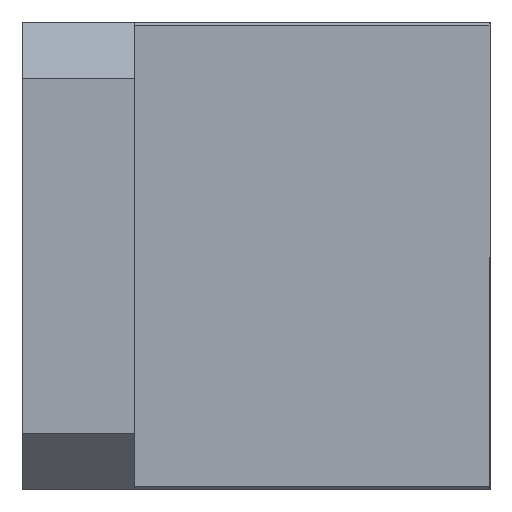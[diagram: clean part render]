
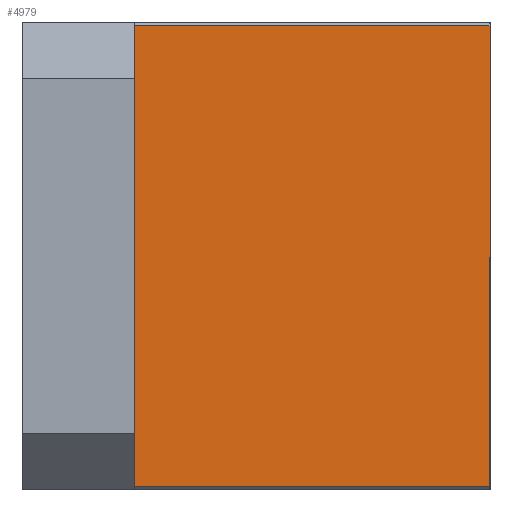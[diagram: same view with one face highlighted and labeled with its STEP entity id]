
A CAD part, left-side view. The second image highlights one B-rep face of the part: STEP entity #4979.
In plain terms, the highlighted planar face has unit normal (-1, 0, 0).
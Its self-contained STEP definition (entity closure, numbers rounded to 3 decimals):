
#884 = FACE_OUTER_BOUND ( 'NONE', #4228, .T. ) ;
#1051 = CARTESIAN_POINT ( 'NONE',  ( -8.804, -6.357, -12.3 ) ) ;
#1598 = DIRECTION ( 'NONE',  ( 1., 0., 0. ) ) ;
#1774 = DIRECTION ( 'NONE',  ( 0., 0., -1. ) ) ;
#1923 = LINE ( 'NONE', #3501, #9528 ) ;
#2151 = DIRECTION ( 'NONE',  ( 0., 0., 1. ) ) ;
#2169 = ORIENTED_EDGE ( 'NONE', *, *, #2649, .T. ) ;
#2260 = LINE ( 'NONE', #6044, #7905 ) ;
#2649 = EDGE_CURVE ( 'NONE', #5338, #11597, #2260, .T. ) ;
#2695 = ORIENTED_EDGE ( 'NONE', *, *, #5814, .F. ) ;
#2863 = DIRECTION ( 'NONE',  ( 0., 1., 0. ) ) ;
#3086 = VECTOR ( 'NONE', #6787, 1000. ) ;
#3501 = CARTESIAN_POINT ( 'NONE',  ( -8.804, 3.143, -12.3 ) ) ;
#3865 = VERTEX_POINT ( 'NONE', #10454 ) ;
#4228 = EDGE_LOOP ( 'NONE', ( #7932, #8088, #2695, #2169 ) ) ;
#4276 = CARTESIAN_POINT ( 'NONE',  ( -8.804, -6.357, 12.3 ) ) ;
#4309 = VERTEX_POINT ( 'NONE', #4972 ) ;
#4870 = EDGE_CURVE ( 'NONE', #11597, #3865, #10087, .T. ) ;
#4972 = CARTESIAN_POINT ( 'NONE',  ( -8.804, 12.643, -12.3 ) ) ;
#4979 = ADVANCED_FACE ( 'NONE', ( #884 ), #8169, .F. ) ;
#5158 = LINE ( 'NONE', #11583, #3086 ) ;
#5338 = VERTEX_POINT ( 'NONE', #1051 ) ;
#5814 = EDGE_CURVE ( 'NONE', #5338, #4309, #1923, .T. ) ;
#6044 = CARTESIAN_POINT ( 'NONE',  ( -8.804, -6.357, 0. ) ) ;
#6319 = CARTESIAN_POINT ( 'NONE',  ( -8.804, -6.357, 12.3 ) ) ;
#6787 = DIRECTION ( 'NONE',  ( 0., 0., -1. ) ) ;
#7144 = DIRECTION ( 'NONE',  ( 0., 1., 0. ) ) ;
#7551 = EDGE_CURVE ( 'NONE', #3865, #4309, #5158, .T. ) ;
#7905 = VECTOR ( 'NONE', #2151, 1000. ) ;
#7932 = ORIENTED_EDGE ( 'NONE', *, *, #4870, .T. ) ;
#8088 = ORIENTED_EDGE ( 'NONE', *, *, #7551, .T. ) ;
#8169 = PLANE ( 'NONE',  #10304 ) ;
#9528 = VECTOR ( 'NONE', #7144, 1000. ) ;
#9616 = VECTOR ( 'NONE', #2863, 1000. ) ;
#10087 = LINE ( 'NONE', #11187, #9616 ) ;
#10304 = AXIS2_PLACEMENT_3D ( 'NONE', #6319, #1598, #1774 ) ;
#10454 = CARTESIAN_POINT ( 'NONE',  ( -8.804, 12.643, 12.3 ) ) ;
#11187 = CARTESIAN_POINT ( 'NONE',  ( -8.804, 3.143, 12.3 ) ) ;
#11583 = CARTESIAN_POINT ( 'NONE',  ( -8.804, 12.643, 0. ) ) ;
#11597 = VERTEX_POINT ( 'NONE', #4276 ) ;
